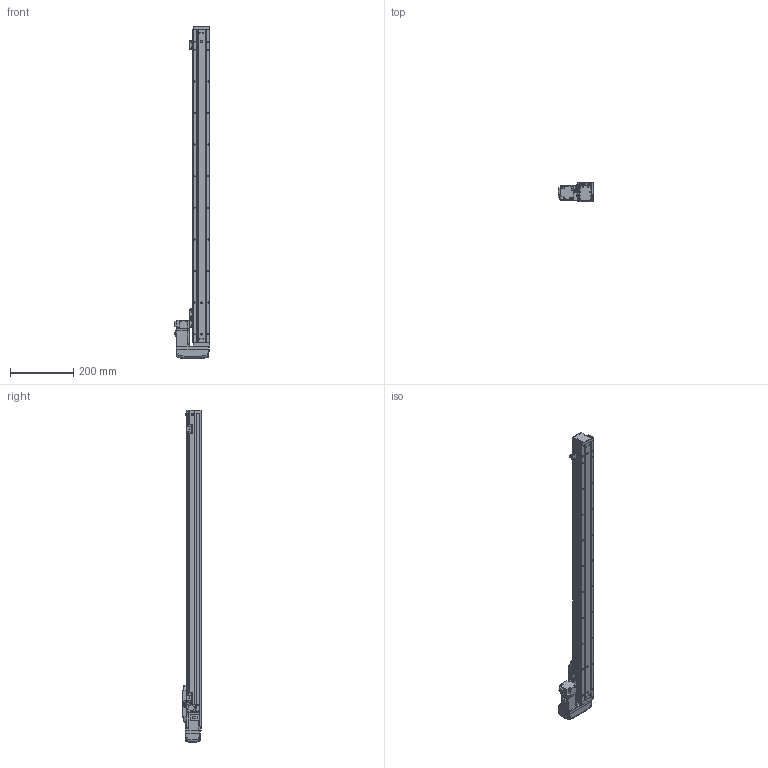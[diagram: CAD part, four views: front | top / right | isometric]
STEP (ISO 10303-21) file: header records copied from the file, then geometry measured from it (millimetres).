
FILE_DESCRIPTION (( 'STEP AP203' ), '1' );
FILE_NAME ('GTH5-850-BL-M10-C4.step', '2023-08-28T00:47:32', ( '微软用户' ), ( '微软中国' ), 'SwSTEP 2.0', 'SolidWorks 2020', '' );
FILE_SCHEMA (( 'CONFIG_CONTROL_DESIGN' ));
Length unit declared in the file: millimetre
Products named in the file (19): BTH-M3X5X6; GBT96.1-2002 3×0.8; GTH50-026; GTH50-001_850; GTH50-024; GTH5-850-BL-M10-C4; GBT 70.1-M4×16; GBT 70.1-M2.5×6; GTH50-003; GTH50-028; GTH50-006; GTH50-013; GTH50-022-1; GTH50-004; GTH50-023; HG-KR13; GBT 70.3-M3℅6; GBT 70.1-M3℅6; GTH50-027-1_BTHA50-027-2
Assembly tree (57 placements, depth 2):
  GTH5-850-BL-M10-C4
    GTH50-006
    GTH50-004
    GBT 70.3-M3℅6  x4
    BTH-M3X5X6  x8
    GTH50-001_850
    GBT 70.1-M4×16  x8
    GTH50-003
    GTH50-013
    GTH50-023  x3
    GBT 70.1-M3℅6  x12
    GBT96.1-2002 3×0.8  x6
    GTH50-024  x3
    GBT 70.1-M2.5×6  x2
    GTH50-028  x2
    GTH50-022-1
    HG-KR13
    GTH50-027-1_BTHA50-027-2
    GTH50-026
Bounding box: 113.8 x 60 x 1050 mm (x, y, z)
Volume: 2327824.5 mm3; surface area: 365612.4 mm2
Topology: 59 solids, 59 shells, 2172 faces, 5052 edges, 3100 vertices
Faces by surface type: plane 1142, cylinder 601, cone 219, torus 162, bspline 40, sphere 8
Entity records: 40604 total; most frequent: CARTESIAN_POINT 8019, DIRECTION 6269, ORIENTED_EDGE 6018, EDGE_CURVE 3009, AXIS2_PLACEMENT_3D 2188, VERTEX_POINT 1902, LINE 1893, VECTOR 1893
